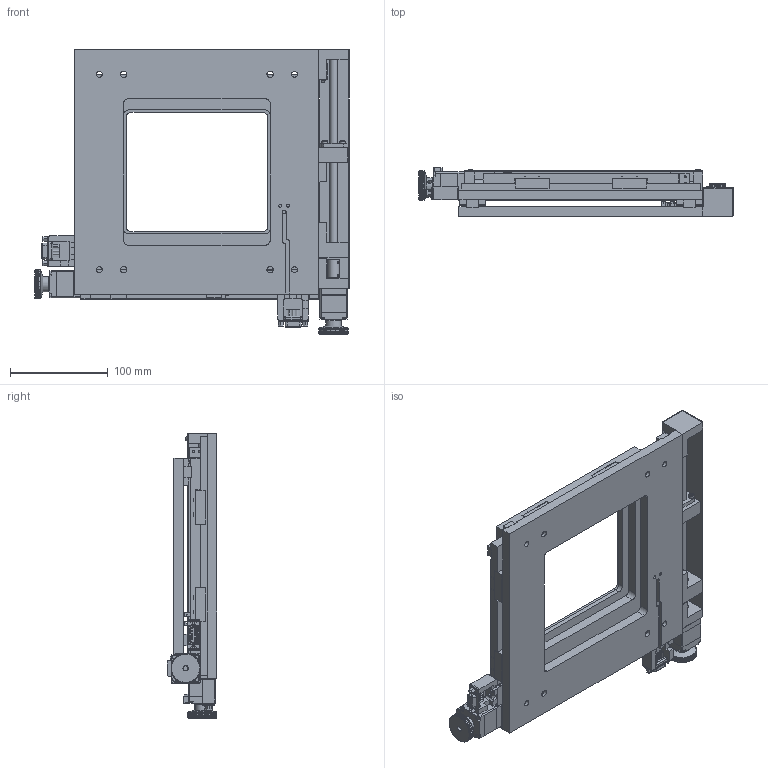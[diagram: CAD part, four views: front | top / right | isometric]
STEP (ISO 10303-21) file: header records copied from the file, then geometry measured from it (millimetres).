
FILE_DESCRIPTION (( 'STEP AP203' ), '1' );
FILE_NAME ('JTH200XY-100.step', '2017-01-10T10:30:53', ( '¦K¬P' ), ( '' ), 'SwSTEP 2.0', 'SolidWorks 2012', '' );
FILE_SCHEMA (( 'CONFIG_CONTROL_DESIGN' ));
Products named in the file (1): JTH200XY-100
Bounding box: 322 x 51 x 291 mm (x, y, z)
Surface area: 367057.4 mm2 (no closed solid volume)
Topology: 0 solids, 155 shells, 1722 faces, 5775 edges, 4075 vertices
Faces by surface type: plane 1130, cylinder 434, cone 121, torus 25, bspline 8, sphere 4
Full cylindrical faces by diameter (mm): 0.5 x7, 1.04 x17, 1.14 x1, 1.64 x16, 2 x2, 2.2 x6, 2.5 x4, 2.8 x1, 3 x12, 3.4 x6, 4 x17, 5 x2, 5.5 x27, 5.7 x4, 6 x27, 6.5 x26, 8 x2, 11 x4, 12 x2, 13 x2, 14.4 x2, 15.8 x2
Entity records: 61994 total; most frequent: CARTESIAN_POINT 13810, DIRECTION 9649, ORIENTED_EDGE 8690, EDGE_CURVE 5373, VERTEX_POINT 3981, VECTOR 3297, LINE 3297, AXIS2_PLACEMENT_3D 3176
